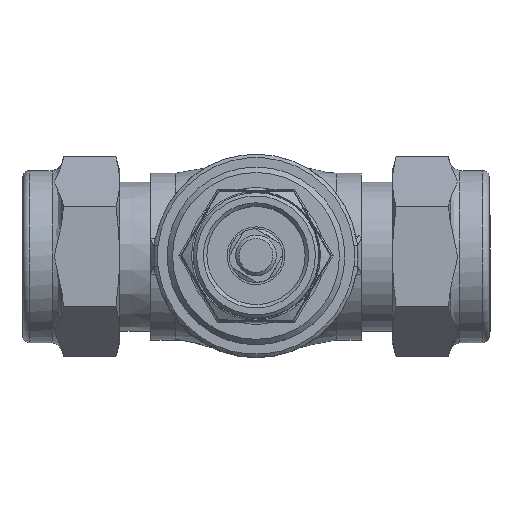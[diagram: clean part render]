
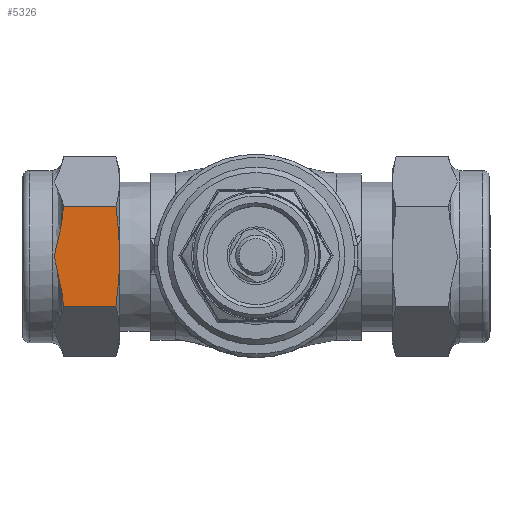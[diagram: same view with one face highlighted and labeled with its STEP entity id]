
A CAD part, top view. The second image highlights one B-rep face of the part: STEP entity #5326.
In plain terms, the highlighted planar face has unit normal (0, 0, 1).
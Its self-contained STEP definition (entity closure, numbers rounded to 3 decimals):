
#4945=CARTESIAN_POINT('',(5.458,-7.361,12.75));
#4946=VERTEX_POINT('',#4945);
#4960=CARTESIAN_POINT('',(-2.272,-7.361,12.75));
#4961=VERTEX_POINT('',#4960);
#4962=CARTESIAN_POINT('',(5.458,-7.361,12.75));
#4963=DIRECTION('',(-1.0,0.0,0.0));
#4964=VECTOR('',#4963,7.73);
#4965=LINE('',#4962,#4964);
#4966=EDGE_CURVE('',#4946,#4961,#4965,.T.);
#5164=CARTESIAN_POINT('',(-2.272,7.361,12.75));
#5165=VERTEX_POINT('',#5164);
#5179=CARTESIAN_POINT('',(5.458,7.361,12.75));
#5180=VERTEX_POINT('',#5179);
#5181=CARTESIAN_POINT('',(5.458,7.361,12.75));
#5182=DIRECTION('',(-1.0,0.0,0.0));
#5183=VECTOR('',#5182,7.73);
#5184=LINE('',#5181,#5183);
#5185=EDGE_CURVE('',#5180,#5165,#5184,.T.);
#5204=CARTESIAN_POINT('',(6.,7.361,12.75));
#5205=DIRECTION('',(0.0,0.0,1.0));
#5206=DIRECTION('',(0.0,-1.0,0.0));
#5207=AXIS2_PLACEMENT_3D('',#5204,#5205,#5206);
#5208=PLANE('',#5207);
#5209=CARTESIAN_POINT('',(-2.516,5.311,12.75));
#5210=VERTEX_POINT('',#5209);
#5211=CARTESIAN_POINT('',(-2.516,5.311,12.75));
#5212=CARTESIAN_POINT('',(-2.413,6.303,12.75));
#5213=CARTESIAN_POINT('',(-2.272,7.361,12.75));
#5221=(BOUNDED_CURVE()B_SPLINE_CURVE(2,(#5211,#5212,#5213),.UNSPECIFIED.,.F.,.U.)B_SPLINE_CURVE_WITH_KNOTS((3,3),(0.0,0.207),.UNSPECIFIED.)CURVE()GEOMETRIC_REPRESENTATION_ITEM()RATIONAL_B_SPLINE_CURVE((1.0,1.003,1.0))REPRESENTATION_ITEM(''));
#5222=EDGE_CURVE('',#5210,#5165,#5221,.T.);
#5223=ORIENTED_EDGE('',*,*,#5222,.F.);
#5224=CARTESIAN_POINT('',(-2.516,-5.311,12.75));
#5225=VERTEX_POINT('',#5224);
#5226=CARTESIAN_POINT('',(-2.516,-5.311,12.75));
#5227=CARTESIAN_POINT('',(-2.564,-4.838,12.75));
#5228=CARTESIAN_POINT('',(-2.646,-4.358,12.75));
#5229=CARTESIAN_POINT('',(-2.736,-3.919,12.75));
#5230=CARTESIAN_POINT('',(-2.761,-3.8,12.75));
#5231=CARTESIAN_POINT('',(-2.785,-3.688,12.75));
#5232=CARTESIAN_POINT('',(-2.813,-3.563,12.75));
#5233=CARTESIAN_POINT('',(-2.837,-3.457,12.75));
#5234=CARTESIAN_POINT('',(-2.863,-3.347,12.75));
#5235=CARTESIAN_POINT('',(-2.887,-3.246,12.75));
#5236=CARTESIAN_POINT('',(-2.903,-3.178,12.75));
#5237=CARTESIAN_POINT('',(-2.919,-3.112,12.75));
#5238=CARTESIAN_POINT('',(-2.936,-3.042,12.75));
#5239=CARTESIAN_POINT('',(-2.99,-2.825,12.75));
#5240=CARTESIAN_POINT('',(-3.051,-2.589,12.75));
#5241=CARTESIAN_POINT('',(-3.104,-2.385,12.75));
#5242=CARTESIAN_POINT('',(-3.127,-2.299,12.75));
#5243=CARTESIAN_POINT('',(-3.15,-2.21,12.75));
#5244=CARTESIAN_POINT('',(-3.175,-2.118,12.75));
#5245=CARTESIAN_POINT('',(-3.225,-1.927,12.75));
#5246=CARTESIAN_POINT('',(-3.279,-1.726,12.75));
#5247=CARTESIAN_POINT('',(-3.326,-1.542,12.75));
#5248=CARTESIAN_POINT('',(-3.351,-1.442,12.75));
#5249=CARTESIAN_POINT('',(-3.375,-1.346,12.75));
#5250=CARTESIAN_POINT('',(-3.399,-1.244,12.75));
#5251=CARTESIAN_POINT('',(-3.466,-0.966,12.75));
#5252=CARTESIAN_POINT('',(-3.53,-0.664,12.75));
#5253=CARTESIAN_POINT('',(-3.56,-0.373,12.75));
#5254=CARTESIAN_POINT('',(-3.573,-0.251,12.75));
#5255=CARTESIAN_POINT('',(-3.58,-0.131,12.75));
#5256=CARTESIAN_POINT('',(-3.58,-0.016,12.75));
#5257=CARTESIAN_POINT('',(-3.581,0.105,12.75));
#5258=CARTESIAN_POINT('',(-3.575,0.231,12.75));
#5259=CARTESIAN_POINT('',(-3.562,0.359,12.75));
#5260=CARTESIAN_POINT('',(-3.539,0.586,12.75));
#5261=CARTESIAN_POINT('',(-3.495,0.819,12.75));
#5262=CARTESIAN_POINT('',(-3.446,1.044,12.75));
#5263=CARTESIAN_POINT('',(-3.415,1.184,12.75));
#5264=CARTESIAN_POINT('',(-3.381,1.32,12.75));
#5265=CARTESIAN_POINT('',(-3.349,1.45,12.75));
#5266=CARTESIAN_POINT('',(-3.326,1.542,12.75));
#5267=CARTESIAN_POINT('',(-3.301,1.64,12.75));
#5268=CARTESIAN_POINT('',(-3.274,1.74,12.75));
#5269=CARTESIAN_POINT('',(-3.229,1.914,12.75));
#5270=CARTESIAN_POINT('',(-3.181,2.094,12.75));
#5271=CARTESIAN_POINT('',(-3.137,2.261,12.75));
#5272=CARTESIAN_POINT('',(-3.112,2.355,12.75));
#5273=CARTESIAN_POINT('',(-3.089,2.443,12.75));
#5274=CARTESIAN_POINT('',(-3.064,2.539,12.75));
#5275=CARTESIAN_POINT('',(-3.03,2.668,12.75));
#5276=CARTESIAN_POINT('',(-2.995,2.805,12.75));
#5277=CARTESIAN_POINT('',(-2.962,2.938,12.75));
#5278=CARTESIAN_POINT('',(-2.941,3.023,12.75));
#5279=CARTESIAN_POINT('',(-2.92,3.107,12.75));
#5280=CARTESIAN_POINT('',(-2.901,3.187,12.75));
#5281=CARTESIAN_POINT('',(-2.883,3.262,12.75));
#5282=CARTESIAN_POINT('',(-2.864,3.342,12.75));
#5283=CARTESIAN_POINT('',(-2.845,3.425,12.75));
#5284=CARTESIAN_POINT('',(-2.822,3.525,12.75));
#5285=CARTESIAN_POINT('',(-2.799,3.627,12.75));
#5286=CARTESIAN_POINT('',(-2.779,3.719,12.75));
#5287=CARTESIAN_POINT('',(-2.76,3.808,12.75));
#5288=CARTESIAN_POINT('',(-2.741,3.896,12.75));
#5289=CARTESIAN_POINT('',(-2.722,3.988,12.75));
#5290=CARTESIAN_POINT('',(-2.638,4.407,12.75));
#5291=CARTESIAN_POINT('',(-2.562,4.863,12.75));
#5292=CARTESIAN_POINT('',(-2.516,5.311,12.75));
#5293=B_SPLINE_CURVE_WITH_KNOTS('',3,(#5226,#5227,#5228,#5229,#5230,#5231,#5232,#5233,#5234,#5235,#5236,#5237,#5238,#5239,#5240,#5241,#5242,#5243,#5244,#5245,#5246,#5247,#5248,#5249,#5250,#5251,#5252,#5253,#5254,#5255,#5256,#5257,#5258,#5259,#5260,#5261,#5262,#5263,#5264,#5265,#5266,#5267,#5268,#5269,#5270,#5271,#5272,#5273,#5274,#5275,#5276,#5277,#5278,#5279,#5280,#5281,#5282,#5283,#5284,#5285,#5286,#5287,#5288,#5289,#5290,#5291,#5292),.UNSPECIFIED.,.F.,.U.,(4,3,3,3,3,3,3,3,3,3,3,3,3,3,3,3,3,3,3,3,3,3,4),(1.362,1.493,1.528,1.558,1.578,1.642,1.668,1.723,1.753,1.835,1.869,1.905,1.969,2.009,2.038,2.087,2.115,2.153,2.177,2.2,2.228,2.255,2.379),.UNSPECIFIED.);
#5294=EDGE_CURVE('',#5225,#5210,#5293,.T.);
#5295=ORIENTED_EDGE('',*,*,#5294,.F.);
#5296=CARTESIAN_POINT('',(-2.272,-7.361,12.75));
#5297=CARTESIAN_POINT('',(-2.413,-6.303,12.75));
#5298=CARTESIAN_POINT('',(-2.516,-5.311,12.75));
#5306=(BOUNDED_CURVE()B_SPLINE_CURVE(2,(#5296,#5297,#5298),.UNSPECIFIED.,.F.,.U.)B_SPLINE_CURVE_WITH_KNOTS((3,3),(0.0,0.207),.UNSPECIFIED.)CURVE()GEOMETRIC_REPRESENTATION_ITEM()RATIONAL_B_SPLINE_CURVE((1.0,1.003,1.0))REPRESENTATION_ITEM(''));
#5307=EDGE_CURVE('',#4961,#5225,#5306,.T.);
#5308=ORIENTED_EDGE('',*,*,#5307,.F.);
#5309=ORIENTED_EDGE('',*,*,#4966,.F.);
#5310=CARTESIAN_POINT('',(5.458,7.361,12.75));
#5311=CARTESIAN_POINT('',(6.444,0.,12.75));
#5312=CARTESIAN_POINT('',(5.458,-7.361,12.75));
#5320=(BOUNDED_CURVE()B_SPLINE_CURVE(2,(#5310,#5311,#5312),.UNSPECIFIED.,.F.,.U.)B_SPLINE_CURVE_WITH_KNOTS((3,3),(0.0,1.476),.UNSPECIFIED.)CURVE()GEOMETRIC_REPRESENTATION_ITEM()RATIONAL_B_SPLINE_CURVE((1.0,1.155,1.0))REPRESENTATION_ITEM(''));
#5321=EDGE_CURVE('',#5180,#4946,#5320,.T.);
#5322=ORIENTED_EDGE('',*,*,#5321,.F.);
#5323=ORIENTED_EDGE('',*,*,#5185,.T.);
#5324=EDGE_LOOP('',(#5223,#5295,#5308,#5309,#5322,#5323));
#5325=FACE_OUTER_BOUND('',#5324,.T.);
#5326=ADVANCED_FACE('',(#5325),#5208,.T.);
